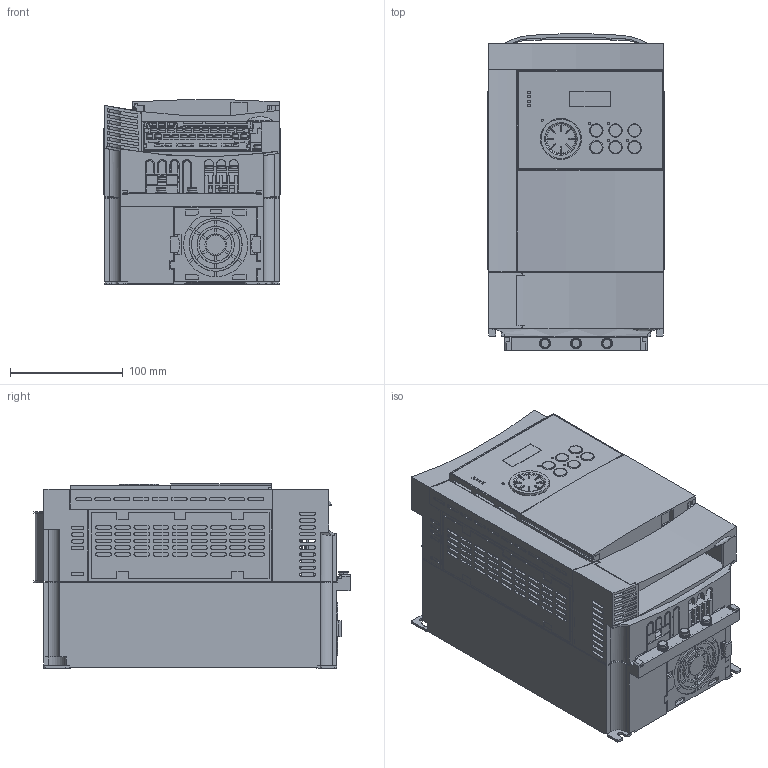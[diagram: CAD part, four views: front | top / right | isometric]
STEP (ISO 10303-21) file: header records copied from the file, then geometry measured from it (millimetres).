
FILE_DESCRIPTION((''),'2;1');
FILE_NAME('VFAS3J_J2_ASM','2019-09-10T09:47:14',('sesa57331'),('Schneider-Electric'),'CREO PARAMETRIC BY PTC INC, 2018300','CREO PARAMETRIC BY PTC INC, 2018300','');
FILE_SCHEMA(('CONFIG_CONTROL_DESIGN'));
Products named in the file (17): VFAS3J_DRIVE_J2; VFAS3J_TOP_COVER_J2; VFAS3J_DISPLAY; VFAS3J_CTR_TERM; VFAS3J_CTR_TERM_SHORT_BAR; VFAS3J_CTR_TERM_SCREW_M3-1; VFAS3J_CTR_TERM_SCREW_M3-2; VFAS3J_CTR_TERM_FL_COVER; VFAS3J_CTR_TERM_ASM; VFAS3J_DISPLAY_COVER; TERM_11MM_M4_SHORT_BAR; TERM_11MM_M4_SCREW; SCREW_M5X12; VFAS3J_POWER_TERM_COVER_J2; VFAS3J_POWER_TERM_TRAP; VFAS3J_POWER_TERM_COVER_J2_ASM; VFAS3J_J2_ASM
Assembly tree (53 placements, depth 3):
  VFAS3J_J2_ASM
    VFAS3J_DRIVE_J2
    VFAS3J_TOP_COVER_J2
    VFAS3J_DISPLAY
    VFAS3J_CTR_TERM_ASM
      VFAS3J_CTR_TERM
      VFAS3J_CTR_TERM_SHORT_BAR  x2
      VFAS3J_CTR_TERM_SCREW_M3-1  x23
      VFAS3J_CTR_TERM_SCREW_M3-2  x3
      VFAS3J_CTR_TERM_FL_COVER
    VFAS3J_DISPLAY_COVER
    TERM_11MM_M4_SHORT_BAR
    TERM_11MM_M4_SCREW  x10
    SCREW_M5X12  x4
    VFAS3J_POWER_TERM_COVER_J2_ASM
      VFAS3J_POWER_TERM_COVER_J2
      VFAS3J_POWER_TERM_TRAP
Bounding box: 157 x 280.85 x 163.78 mm (x, y, z)
Volume: 3624079 mm3; surface area: 692079.3 mm2
Topology: 51 solids, 54 shells, 5174 faces, 14052 edges, 9225 vertices
Faces by surface type: plane 3882, cylinder 1100, torus 122, cone 44, sphere 24, bspline 2
Entity records: 147349 total; most frequent: CARTESIAN_POINT 26408, ORIENTED_EDGE 25564, DIRECTION 24223, EDGE_CURVE 12782, VECTOR 10531, LINE 10531, VERTEX_POINT 8422, AXIS2_PLACEMENT_3D 6846
